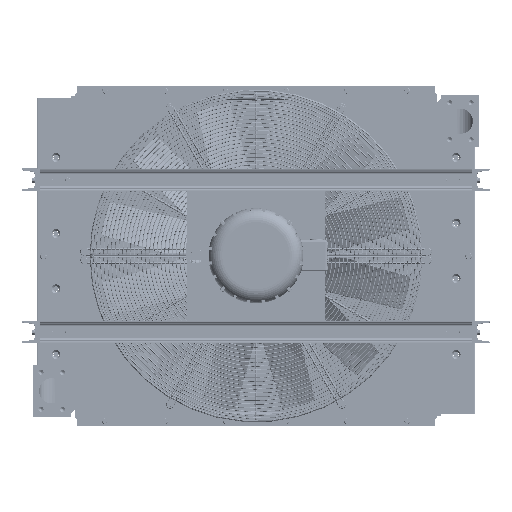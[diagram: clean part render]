
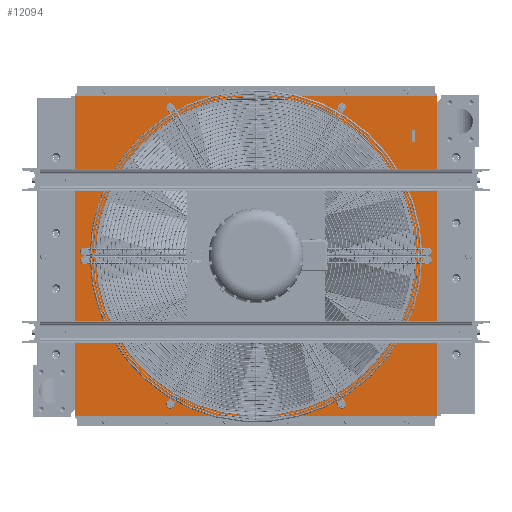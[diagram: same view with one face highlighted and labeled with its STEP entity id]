
A CAD part, top view. The second image highlights one B-rep face of the part: STEP entity #12094.
In plain terms, the highlighted planar face has unit normal (0, 0, 1) as drawn and (-1, 0, 0) by its records, which use the part's own axes.
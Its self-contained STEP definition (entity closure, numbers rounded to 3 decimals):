
#12094 = ADVANCED_FACE( '', ( #23161, #23162, #23163, #23164, #23165, #23166, #23167, #23168, #23169, #23170 ), #23171, .T. );
#23161 = FACE_BOUND( '', #54821, .T. );
#23162 = FACE_BOUND( '', #54822, .T. );
#23163 = FACE_BOUND( '', #54823, .T. );
#23164 = FACE_BOUND( '', #54824, .T. );
#23165 = FACE_BOUND( '', #54825, .T. );
#23166 = FACE_BOUND( '', #54826, .T. );
#23167 = FACE_BOUND( '', #54827, .T. );
#23168 = FACE_BOUND( '', #54828, .T. );
#23169 = FACE_BOUND( '', #54829, .T. );
#23170 = FACE_OUTER_BOUND( '', #54830, .T. );
#23171 = PLANE( '', #54831 );
#54821 = EDGE_LOOP( '', ( #91488 ) );
#54822 = EDGE_LOOP( '', ( #91489 ) );
#54823 = EDGE_LOOP( '', ( #91490 ) );
#54824 = EDGE_LOOP( '', ( #91491 ) );
#54825 = EDGE_LOOP( '', ( #91492 ) );
#54826 = EDGE_LOOP( '', ( #91493 ) );
#54827 = EDGE_LOOP( '', ( #91494 ) );
#54828 = EDGE_LOOP( '', ( #91495 ) );
#54829 = EDGE_LOOP( '', ( #91496 ) );
#54830 = EDGE_LOOP( '', ( #91497, #91498, #91499, #91500 ) );
#54831 = AXIS2_PLACEMENT_3D( '', #91501, #91502, #91503 );
#91488 = ORIENTED_EDGE( '', *, *, #112310, .F. );
#91489 = ORIENTED_EDGE( '', *, *, #110964, .F. );
#91490 = ORIENTED_EDGE( '', *, *, #112311, .F. );
#91491 = ORIENTED_EDGE( '', *, *, #112312, .F. );
#91492 = ORIENTED_EDGE( '', *, *, #106807, .F. );
#91493 = ORIENTED_EDGE( '', *, *, #112313, .F. );
#91494 = ORIENTED_EDGE( '', *, *, #111575, .F. );
#91495 = ORIENTED_EDGE( '', *, *, #110150, .F. );
#91496 = ORIENTED_EDGE( '', *, *, #112314, .F. );
#91497 = ORIENTED_EDGE( '', *, *, #112315, .F. );
#91498 = ORIENTED_EDGE( '', *, *, #105747, .F. );
#91499 = ORIENTED_EDGE( '', *, *, #109980, .F. );
#91500 = ORIENTED_EDGE( '', *, *, #112316, .F. );
#91501 = CARTESIAN_POINT( '', ( 0., -463., 525. ) );
#91502 = DIRECTION( '', ( -1., 0., 0. ) );
#91503 = DIRECTION( '', ( 0., -1., 0. ) );
#105747 = EDGE_CURVE( '', #119553, #119555, #119556, .T. );
#106807 = EDGE_CURVE( '', #121330, #121330, #121331, .T. );
#109980 = EDGE_CURVE( '', #126188, #119553, #126190, .T. );
#110150 = EDGE_CURVE( '', #126436, #126436, #126437, .T. );
#110964 = EDGE_CURVE( '', #127560, #127560, #127561, .T. );
#111575 = EDGE_CURVE( '', #128387, #128387, #128388, .T. );
#112310 = EDGE_CURVE( '', #129355, #129355, #129356, .T. );
#112311 = EDGE_CURVE( '', #129357, #129357, #129358, .T. );
#112312 = EDGE_CURVE( '', #129359, #129359, #129360, .T. );
#112313 = EDGE_CURVE( '', #129361, #129361, #129362, .T. );
#112314 = EDGE_CURVE( '', #129363, #129363, #129364, .T. );
#112315 = EDGE_CURVE( '', #119555, #129365, #129366, .T. );
#112316 = EDGE_CURVE( '', #129365, #126188, #129367, .T. );
#119553 = VERTEX_POINT( '', #146468 );
#119555 = VERTEX_POINT( '', #146471 );
#119556 = LINE( '', #146472, #146473 );
#121330 = VERTEX_POINT( '', #151945 );
#121331 = CIRCLE( '', #151946, 5.25 );
#126188 = VERTEX_POINT( '', #172609 );
#126190 = LINE( '', #172612, #172613 );
#126436 = VERTEX_POINT( '', #173796 );
#126437 = CIRCLE( '', #173797, 5.25 );
#127560 = VERTEX_POINT( '', #177939 );
#127561 = CIRCLE( '', #177940, 5.25 );
#128387 = VERTEX_POINT( '', #180808 );
#128388 = CIRCLE( '', #180809, 5.25 );
#129355 = VERTEX_POINT( '', #184039 );
#129356 = CIRCLE( '', #184040, 5.25 );
#129357 = VERTEX_POINT( '', #184041 );
#129358 = CIRCLE( '', #184042, 5.25 );
#129359 = VERTEX_POINT( '', #184043 );
#129360 = CIRCLE( '', #184044, 5.25 );
#129361 = VERTEX_POINT( '', #184045 );
#129362 = CIRCLE( '', #184046, 5.25 );
#129363 = VERTEX_POINT( '', #184047 );
#129364 = CIRCLE( '', #184048, 462. );
#129365 = VERTEX_POINT( '', #184049 );
#129366 = LINE( '', #184050, #184051 );
#129367 = LINE( '', #184052, #184053 );
#146468 = CARTESIAN_POINT( '', ( 0., 463., 525. ) );
#146471 = CARTESIAN_POINT( '', ( 0., -463., 525. ) );
#146472 = CARTESIAN_POINT( '', ( 0., 463., 525. ) );
#146473 = VECTOR( '', #196163, 1000. );
#151945 = CARTESIAN_POINT( '', ( 0., 423.433, 247.5 ) );
#151946 = AXIS2_PLACEMENT_3D( '', #197122, #197123, #197124 );
#172609 = CARTESIAN_POINT( '', ( 0., 463., -525. ) );
#172612 = CARTESIAN_POINT( '', ( 0., 463., -525. ) );
#172613 = VECTOR( '', #199725, 1000. );
#173796 = CARTESIAN_POINT( '', ( 0., -433.933, 247.5 ) );
#173797 = AXIS2_PLACEMENT_3D( '', #199872, #199873, #199874 );
#177939 = CARTESIAN_POINT( '', ( 0., 6.75, -494.855 ) );
#177940 = AXIS2_PLACEMENT_3D( '', #200522, #200523, #200524 );
#180808 = CARTESIAN_POINT( '', ( 0., -433.933, -247.5 ) );
#180809 = AXIS2_PLACEMENT_3D( '', #200946, #200947, #200948 );
#184039 = CARTESIAN_POINT( '', ( 0., -17.25, -494.855 ) );
#184040 = AXIS2_PLACEMENT_3D( '', #201513, #201514, #201515 );
#184041 = CARTESIAN_POINT( '', ( 0., -17.25, 494.855 ) );
#184042 = AXIS2_PLACEMENT_3D( '', #201516, #201517, #201518 );
#184043 = CARTESIAN_POINT( '', ( 0., 6.75, 494.855 ) );
#184044 = AXIS2_PLACEMENT_3D( '', #201519, #201520, #201521 );
#184045 = CARTESIAN_POINT( '', ( 0., 423.433, -247.5 ) );
#184046 = AXIS2_PLACEMENT_3D( '', #201522, #201523, #201524 );
#184047 = CARTESIAN_POINT( '', ( 0., -462., 0. ) );
#184048 = AXIS2_PLACEMENT_3D( '', #201525, #201526, #201527 );
#184049 = CARTESIAN_POINT( '', ( 0., -463., -525. ) );
#184050 = CARTESIAN_POINT( '', ( 0., -463., 525. ) );
#184051 = VECTOR( '', #201528, 1000. );
#184052 = CARTESIAN_POINT( '', ( 0., -463., -525. ) );
#184053 = VECTOR( '', #201529, 1000. );
#196163 = DIRECTION( '', ( 0., -1., 0. ) );
#197122 = CARTESIAN_POINT( '', ( 0., 428.683, 247.5 ) );
#197123 = DIRECTION( '', ( -1., 0., 0. ) );
#197124 = DIRECTION( '', ( 0., -1., 0. ) );
#199725 = DIRECTION( '', ( 0., 0., 1. ) );
#199872 = CARTESIAN_POINT( '', ( 0., -428.683, 247.5 ) );
#199873 = DIRECTION( '', ( -1., 0., 0. ) );
#199874 = DIRECTION( '', ( 0., -1., 0. ) );
#200522 = CARTESIAN_POINT( '', ( 0., 12., -494.855 ) );
#200523 = DIRECTION( '', ( -1., 0., 0. ) );
#200524 = DIRECTION( '', ( 0., -1., 0. ) );
#200946 = CARTESIAN_POINT( '', ( 0., -428.683, -247.5 ) );
#200947 = DIRECTION( '', ( -1., 0., 0. ) );
#200948 = DIRECTION( '', ( 0., -1., 0. ) );
#201513 = CARTESIAN_POINT( '', ( 0., -12., -494.855 ) );
#201514 = DIRECTION( '', ( -1., 0., 0. ) );
#201515 = DIRECTION( '', ( 0., -1., 0. ) );
#201516 = CARTESIAN_POINT( '', ( 0., -12., 494.855 ) );
#201517 = DIRECTION( '', ( -1., 0., 0. ) );
#201518 = DIRECTION( '', ( 0., -1., 0. ) );
#201519 = CARTESIAN_POINT( '', ( 0., 12., 494.855 ) );
#201520 = DIRECTION( '', ( -1., 0., 0. ) );
#201521 = DIRECTION( '', ( 0., -1., 0. ) );
#201522 = CARTESIAN_POINT( '', ( 0., 428.683, -247.5 ) );
#201523 = DIRECTION( '', ( -1., 0., 0. ) );
#201524 = DIRECTION( '', ( 0., -1., 0. ) );
#201525 = CARTESIAN_POINT( '', ( 0., 0., 0. ) );
#201526 = DIRECTION( '', ( -1., 0., 0. ) );
#201527 = DIRECTION( '', ( 0., -1., 0. ) );
#201528 = DIRECTION( '', ( 0., 0., -1. ) );
#201529 = DIRECTION( '', ( 0., 1., 0. ) );
